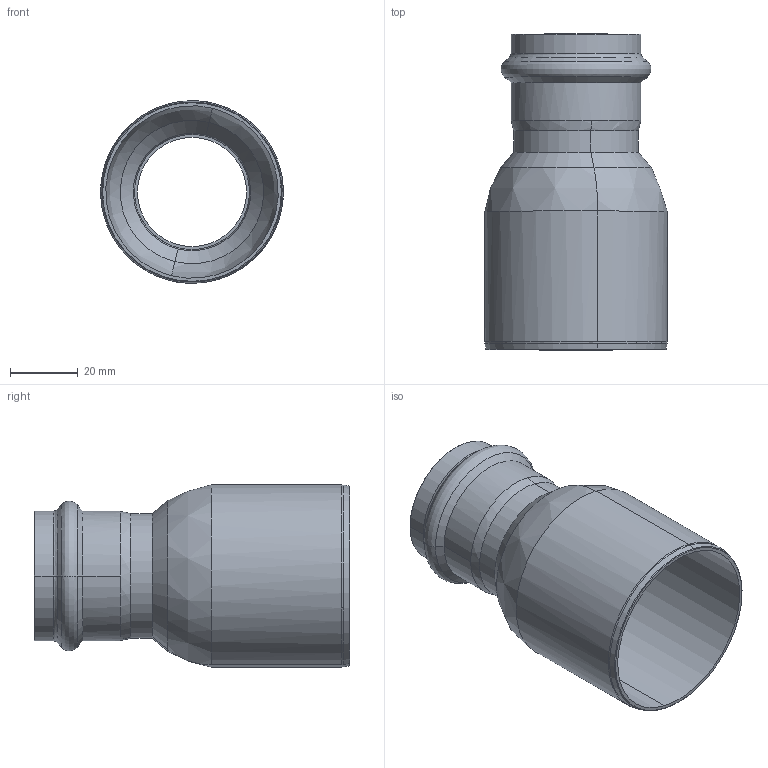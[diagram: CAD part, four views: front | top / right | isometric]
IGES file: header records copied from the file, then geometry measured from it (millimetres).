
Start section: Elysium IGES Interface
Global section: file name: C:\Users\Wallenburg\Desktop\3d modellen sudo\S-Pr VP\SP6243V\6243VW5435.igs; native system: CoCreate Modeling 17.00A  17-Jun-2010; preprocessor: CoCreate IGES_3D V2.2; author: Unknown; organization: Unknown; date: 20130124.094645; units: millimetre
Bounding box: 53.98 x 93.33 x 53.88 mm (x, y, z)
Volume: 22773.9 mm3; surface area: 28340.8 mm2
Topology: 1 solids, 1 shells, 60 faces, 136 edges, 78 vertices
Faces by surface type: bspline 60
